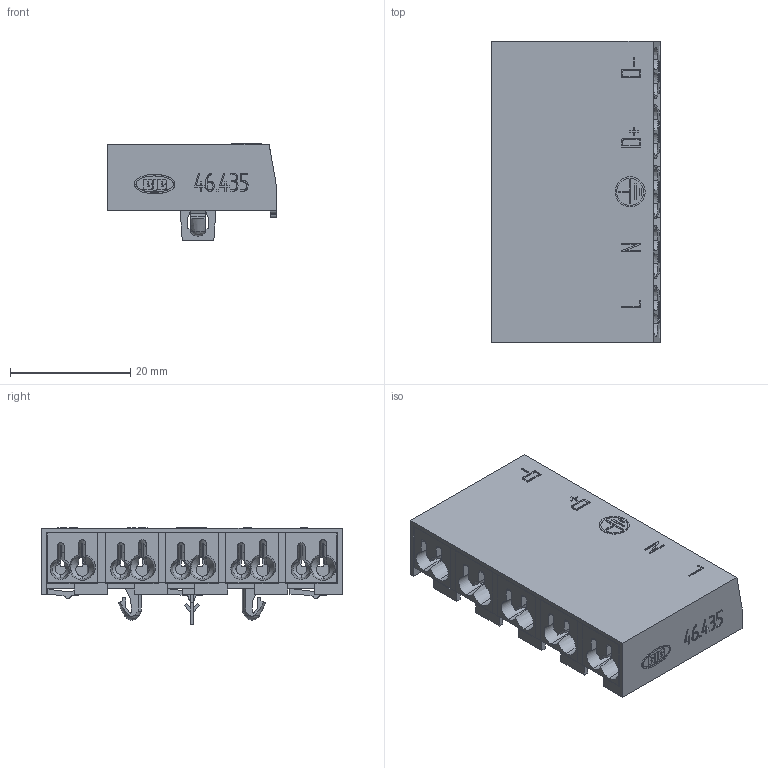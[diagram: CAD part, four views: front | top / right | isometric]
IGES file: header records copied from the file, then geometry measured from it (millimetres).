
Global section: file name: C:\CoreTechnologie\3D-in/011YM0NY03.igs; native system: CT CoreTechnologie 3D Evolution; preprocessor: 2006; date: 1190125.111557; units: millimetre
Bounding box: 28 x 50.05 x 16.1 mm (x, y, z)
Volume: 6951.6 mm3; surface area: 13831 mm2
Topology: 13 solids, 13 shells, 921 faces, 2591 edges, 1707 vertices
Faces by surface type: plane 664, revolution 205, bspline 52
